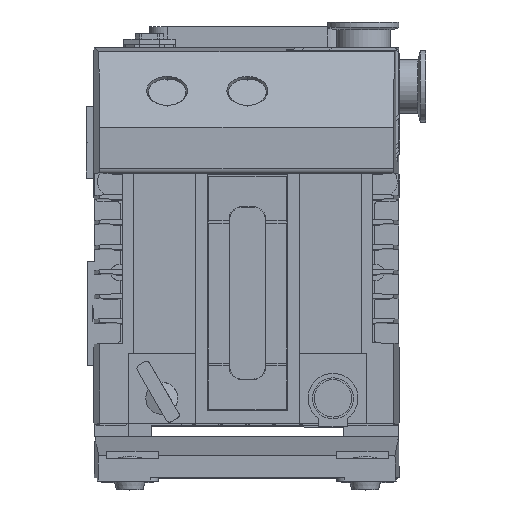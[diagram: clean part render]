
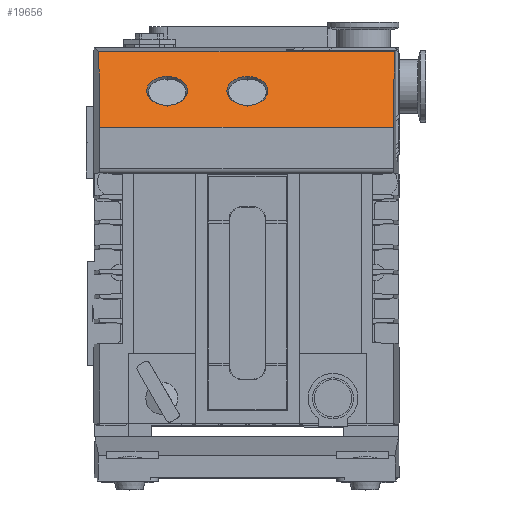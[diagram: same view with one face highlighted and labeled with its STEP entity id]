
A CAD part, top view. The second image highlights one B-rep face of the part: STEP entity #19656.
In plain terms, the highlighted planar face has unit normal (0, 0.707, 0.707) as drawn and (-0.707, 0.707, 0) by its records, which use the part's own axes.
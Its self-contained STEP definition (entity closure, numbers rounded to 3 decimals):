
#14923=DIRECTION('',(0.,0.,1.));
#14924=VECTOR('',#14923,165.799);
#14925=CARTESIAN_POINT('',(-204.101,123.399,
-83.399));
#14926=LINE('',#14925,#14924);
#14927=DIRECTION('',(0.707,0.707,0.009));
#14928=VECTOR('',#14927,59.964);
#14929=CARTESIAN_POINT('',(-246.5,81.,81.859));
#14930=LINE('',#14929,#14928);
#14931=DIRECTION('',(0.707,0.707,-0.009));
#14932=VECTOR('',#14931,59.964);
#14933=CARTESIAN_POINT('',(-246.5,81.,-82.859));
#14934=LINE('',#14933,#14932);
#14935=CARTESIAN_POINT('',(-225.994,101.506,0.));
#14936=DIRECTION('',(-0.707,0.707,0.));
#14937=DIRECTION('',(0.707,0.707,0.));
#14938=AXIS2_PLACEMENT_3D('',#14935,#14936,#14937);
#14940=CARTESIAN_POINT('',(-225.994,101.506,0.));
#14941=DIRECTION('',(-0.707,0.707,0.));
#14942=DIRECTION('',(-0.707,-0.707,0.));
#14943=AXIS2_PLACEMENT_3D('',#14940,#14941,#14942);
#14945=CARTESIAN_POINT('',(-225.994,101.506,-45.));
#14946=DIRECTION('',(-0.707,0.707,0.));
#14947=DIRECTION('',(0.707,0.707,0.));
#14948=AXIS2_PLACEMENT_3D('',#14945,#14946,#14947);
#14950=CARTESIAN_POINT('',(-225.994,101.506,-45.));
#14951=DIRECTION('',(-0.707,0.707,0.));
#14952=DIRECTION('',(-0.707,-0.707,0.));
#14953=AXIS2_PLACEMENT_3D('',#14950,#14951,#14952);
#14963=DIRECTION('',(0.,0.,1.));
#14964=VECTOR('',#14963,164.718);
#14965=CARTESIAN_POINT('',(-246.5,81.,-82.859));
#14966=LINE('',#14965,#14964);
#17694=CARTESIAN_POINT('',(-204.101,123.399,
-83.399));
#17695=CARTESIAN_POINT('',(-204.101,123.399,
82.399));
#17696=VERTEX_POINT('',#17694);
#17697=VERTEX_POINT('',#17695);
#17937=CARTESIAN_POINT('',(-246.5,81.,-82.859));
#17938=CARTESIAN_POINT('',(-246.5,81.,81.859));
#17939=VERTEX_POINT('',#17937);
#17940=VERTEX_POINT('',#17938);
#18263=CARTESIAN_POINT('',(-217.862,109.638,0.));
#18264=CARTESIAN_POINT('',(-234.126,93.374,0.));
#18265=VERTEX_POINT('',#18263);
#18266=VERTEX_POINT('',#18264);
#18281=CARTESIAN_POINT('',(-217.862,109.638,-45.));
#18282=CARTESIAN_POINT('',(-234.126,93.374,-45.));
#18283=VERTEX_POINT('',#18281);
#18284=VERTEX_POINT('',#18282);
#19632=CARTESIAN_POINT('',(-246.5,81.,-103.1));
#19633=DIRECTION('',(0.707,-0.707,0.));
#19634=DIRECTION('',(0.707,0.707,0.));
#19635=AXIS2_PLACEMENT_3D('',#19632,#19633,#19634);
#19636=PLANE('',#19635);
#19637=ORIENTED_EDGE('',*,*,#19478,.T.);
#19638=ORIENTED_EDGE('',*,*,#18668,.F.);
#19640=ORIENTED_EDGE('',*,*,#19639,.F.);
#19641=ORIENTED_EDGE('',*,*,#19432,.T.);
#19642=EDGE_LOOP('',(#19637,#19638,#19640,#19641));
#19643=FACE_OUTER_BOUND('',#19642,.F.);
#19645=ORIENTED_EDGE('',*,*,#19644,.T.);
#19647=ORIENTED_EDGE('',*,*,#19646,.T.);
#19648=EDGE_LOOP('',(#19645,#19647));
#19649=FACE_BOUND('',#19648,.F.);
#19651=ORIENTED_EDGE('',*,*,#19650,.T.);
#19653=ORIENTED_EDGE('',*,*,#19652,.T.);
#19654=EDGE_LOOP('',(#19651,#19653));
#19655=FACE_BOUND('',#19654,.F.);
#14939=CIRCLE('',#14938,11.5);
#14944=CIRCLE('',#14943,11.5);
#14949=CIRCLE('',#14948,11.5);
#14954=CIRCLE('',#14953,11.5);
#18668=EDGE_CURVE('',#17940,#17697,#14930,.T.);
#19432=EDGE_CURVE('',#17939,#17696,#14934,.T.);
#19478=EDGE_CURVE('',#17696,#17697,#14926,.T.);
#19639=EDGE_CURVE('',#17939,#17940,#14966,.T.);
#19644=EDGE_CURVE('',#18265,#18266,#14939,.T.);
#19646=EDGE_CURVE('',#18266,#18265,#14944,.T.);
#19650=EDGE_CURVE('',#18283,#18284,#14949,.T.);
#19652=EDGE_CURVE('',#18284,#18283,#14954,.T.);
#19656=ADVANCED_FACE('',(#19643,#19649,#19655),#19636,.F.);
